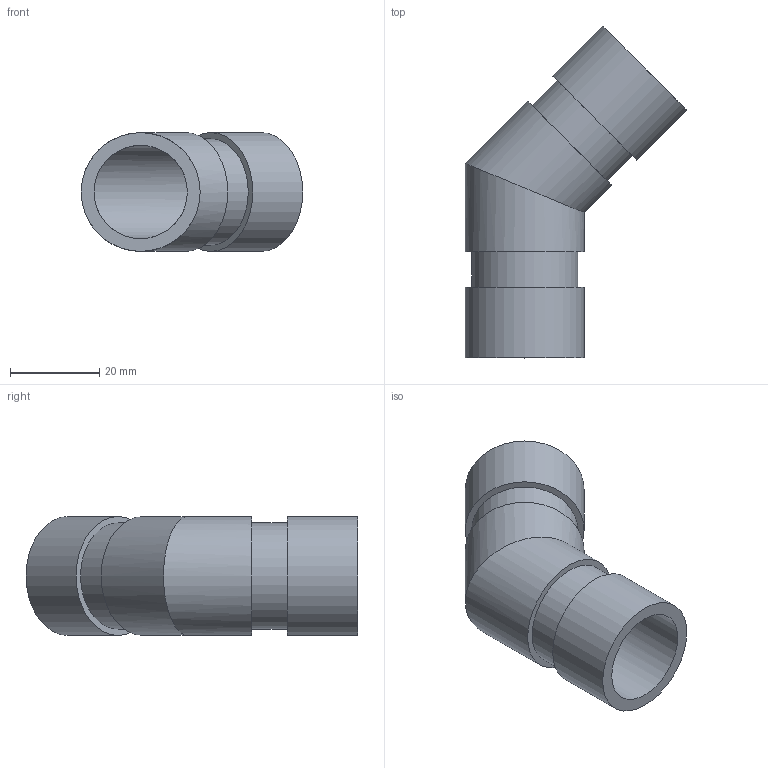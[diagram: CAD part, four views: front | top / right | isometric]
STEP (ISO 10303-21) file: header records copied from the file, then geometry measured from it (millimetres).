
FILE_DESCRIPTION(/* description */ ('VIC 45 DEG FABRICATED ELBOW No 11 SWS (OGS)','CAx-IF Rec.Pracs.---Representation and Presentation of Product Manufacturing Information (PMI)---4.0---2014-10-13'),/* implementation_level */ '2;1');
FILE_NAME(/* name */ 'C:\Users\kkamble\AppData\Roaming\Autodesk\ApplicationPlugins\Back Up\Victaulic_IPS_Elbow 45 Deg_No 11 SWS (OGS)\Victaulic_IPS_Elbow 45 Deg_No 11 SWS (OGS)_0.75 (20).stp',/* time_stamp */ '2020-09-16T22:14:04+06:00',/* author */ ('cgray'),/* organization */ ('Victaulic'),/* preprocessor_version */ 'ST-DEVELOPER v17.2',/* originating_system */ 'Autodesk Inventor 2019',/* authorisation */ '');
FILE_SCHEMA (('AP242_MANAGED_MODEL_BASED_3D_ENGINEERING_MIM_LF { 1 0 10303 442 1 1 4 }'));
Length unit declared in the file: inch
Products named in the file (1): 11 SWS-0.75
Bounding box: 49.7 x 74.47 x 26.67 mm (x, y, z)
Volume: 14558.8 mm3; surface area: 12133.2 mm2
Topology: 1 solids, 1 shells, 14 faces, 30 edges, 22 vertices
Faces by surface type: cylinder 8, plane 6
Full cylindrical faces by diameter (mm): 20.93 x2, 23.825 x2, 26.67 x4
Entity records: 554 total; most frequent: DIRECTION 108, CARTESIAN_POINT 84, ORIENTED_EDGE 60, AXIS2_PLACEMENT_3D 50, EDGE_CURVE 30, VERTEX_POINT 22, EDGE_LOOP 20, CIRCLE 16
